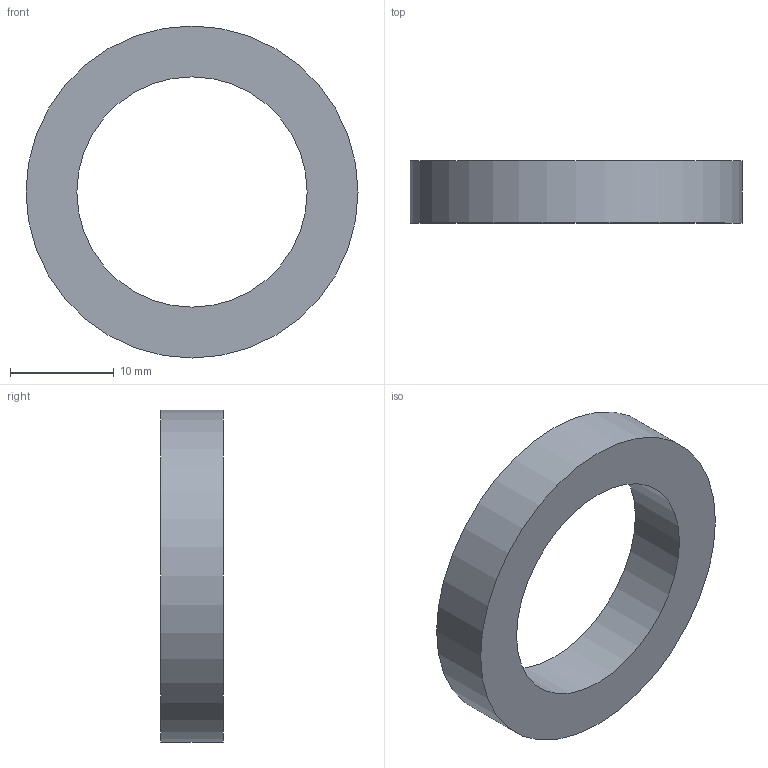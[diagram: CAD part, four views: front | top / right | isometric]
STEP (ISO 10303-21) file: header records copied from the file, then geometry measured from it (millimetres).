
FILE_DESCRIPTION(('Open CASCADE Model'),'2;1');
FILE_NAME('Open CASCADE Shape Model','2026-10-04T01:02:30',('Author'),( 'Open CASCADE'),'Open CASCADE STEP processor 8.0','Open CASCADE 8.0' ,'Unknown');
FILE_SCHEMA(('AUTOMOTIVE_DESIGN { 1 0 10303 214 1 1 1 1 }'));
Length unit declared in the file: millimetre
Products named in the file (1): Open CASCADE STEP translator 8.0 222
Bounding box: 32 x 6 x 32 mm (x, y, z)
Volume: 2503 mm3; surface area: 1856 mm2
Topology: 1 solids, 1 shells, 4 faces, 6 edges, 4 vertices
Faces by surface type: cylinder 2, plane 2
Full cylindrical faces by diameter (mm): 22.2 x1, 32 x1
Entity records: 186 total; most frequent: DIRECTION 32, CARTESIAN_POINT 27, ORIENTED_EDGE 12, PCURVE 12, DEFINITIONAL_REPRESENTATION 12, LINE 10, VECTOR 10, AXIS2_PLACEMENT_3D 9
